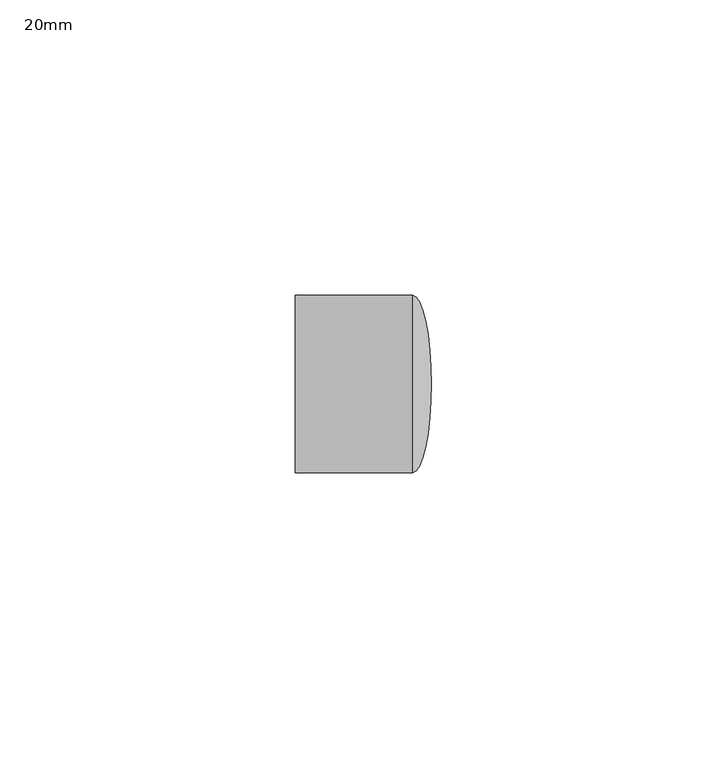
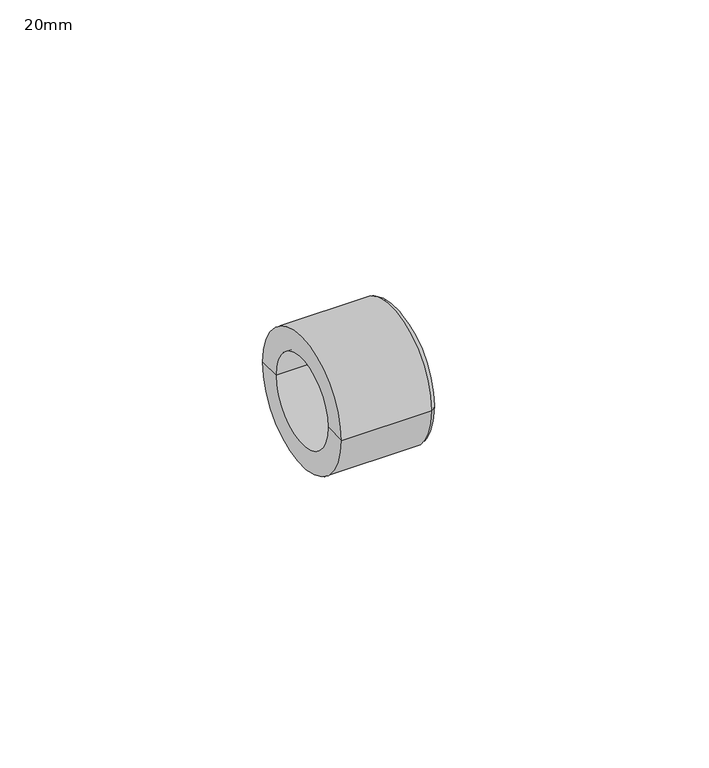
"""IFC4 building model written with IfcOpenShell, lengths in millimetres: pipe fitting geometry, PipeFitting_HTA_CPVC_Caps : 20mm."""

from ifc_helpers import new_model, si_unit, point, frame, origin, place, context, project, spatial, polyline, circle_curve, ellipse_curve, trimmed, source, transform, mapped, element, save
from ifc_brep_helpers import plane_surface, cylinder_surface, revolved_surface, advanced_brep


def pipe_fitting_20mm_664b574d(model_context):
    return source(origin(), model_context, "Body", "AdvancedBrep", [
        advanced_brep(
        [(8.35, -15.0, 0.0), (8.35, 15.0, 0.0), (11.5, 0.0, 0.0), (-11.5, -15.0, 0.0), (-11.5, 15.0, 0.0), (-11.5, -10.0, 0.0), (-11.5, 10.0, 0.0), (7.0703125, -10.0, 0.0), (7.0703125, 10.0, 0.0)],
        [
            (0, 1, circle_curve(frame((8.35, 0.0, 0.0), z_axis=(1.0, 0.0, 0.0), x_axis=(0.0, 1.0, 0.0)), 15.0)),
            (1, 2, ellipse_curve(frame((8.35, 0.0, 0.0), z_axis=(0.0, 0.0, -1.0), x_axis=(0.0, 1.0, 0.0)), 15.0, 3.15)),
            (2, 0, ellipse_curve(frame((8.35, 0.0, 0.0), z_axis=(0.0, 0.0, -1.0), x_axis=(0.0, -1.0, 0.0)), 15.0, 3.15)),
            (1, 0, circle_curve(frame((8.35, 0.0, 0.0), z_axis=(1.0, 0.0, 0.0), x_axis=(0.0, 1.0, 0.0)), 15.0)),
            (0, 3),
            (3, 4, circle_curve(frame((-11.5, 0.0, 0.0), z_axis=(1.0, 0.0, 0.0), x_axis=(0.0, 1.0, 0.0)), 15.0)),
            (4, 1),
            (4, 3, circle_curve(frame((-11.5, 0.0, 0.0), z_axis=(1.0, 0.0, 0.0), x_axis=(0.0, 1.0, 0.0)), 15.0)),
            (3, 5),
            (5, 6, circle_curve(frame((-11.5, 0.0, 0.0), z_axis=(1.0, 0.0, 0.0), x_axis=(0.0, 1.0, 0.0)), 10.0)),
            (6, 4),
            (6, 5, circle_curve(frame((-11.5, 0.0, 0.0), z_axis=(1.0, 0.0, 0.0), x_axis=(0.0, 1.0, 0.0)), 10.0)),
            (7, 8, circle_curve(frame((7.0703125, 0.0, 0.0), z_axis=(-1.0, 0.0, 0.0), x_axis=(0.0, 1.0, 0.0)), 10.0)),
            (8, 7, circle_curve(frame((7.0703125, 0.0, 0.0), z_axis=(-1.0, 0.0, 0.0), x_axis=(0.0, 1.0, 0.0)), 10.0)),
            (8, 6),
            (5, 7),
        ],
        [
            revolved_surface(trimmed(ellipse_curve(frame((8.35, 0.0, 0.0), z_axis=(0.0, 0.0, 1.0), x_axis=(0.0, 1.0, 0.0)), 15.0, 3.15), [point((11.5, 0.0, 0.0))], [point((8.35, 15.0, 0.0))], True, "CARTESIAN"), (-380.0, 0.0, 0.0), (-1.0, 0.0, 0.0)),
            cylinder_surface(frame((-380.0, 0.0, 0.0), z_axis=(-1.0, 0.0, 0.0), x_axis=(0.0, 1.0, 0.0)), 15.0),
            plane_surface(frame((-11.5, 0.0, 0.0), z_axis=(-1.0, 0.0, 0.0), x_axis=(0.0, 1.0, 0.0))),
            plane_surface(frame((7.0703125, 10.0, 0.0), z_axis=(-1.0, 0.0, 0.0), x_axis=(0.0, 0.0, 1.0))),
            revolved_surface(polyline([(7.0703125, 10.0, 0.0), (-11.5, 10.0, 0.0)]), (-11.5, 0.0, 0.0), (1.0, 0.0, 0.0)),
        ],
        [
            (0, [[1, 2, 3]]),
            (0, [[-2, 4, -3]]),
            (1, [[-1, 5, 6, 7]]),
            (1, [[-4, -7, 8, -5]]),
            (2, [[-6, 9, 10, 11]]),
            (2, [[-8, -11, 12, -9]]),
            (3, [[13, 14]]),
            (4, [[-14, 15, -10, 16]]),
            (4, [[-13, -16, -12, -15]]),
        ],
    ),
    ])


if __name__ == "__main__":
    model = new_model("IFC4")
    model_context = context("Model", 3, world=origin())
    ifc_project = project(units=[si_unit("LENGTHUNIT", "METRE", prefix="MILLI")], contexts=[model_context])
    site = spatial("IfcSite", under=ifc_project)
    building = spatial("IfcBuilding", under=site)
    placement = place(None, origin())
    pipe_fitting_20mm_shape = pipe_fitting_20mm_664b574d(model_context)
    element("IfcPipeFitting", 1, ObjectType="PipeFitting_HTA_CPVC_Caps : 20mm", at=placement, inside=building, context=model_context, shape_type="MappedRepresentation", body=[
        mapped(pipe_fitting_20mm_shape, transform((0.0, 0.0, 0.0), x_axis=(1.0, 0.0, 0.0), y_axis=(0.0, 1.0, 0.0), z_axis=(0.0, 0.0, 1.0))),
    ])
    save(model, "model.ifc")
